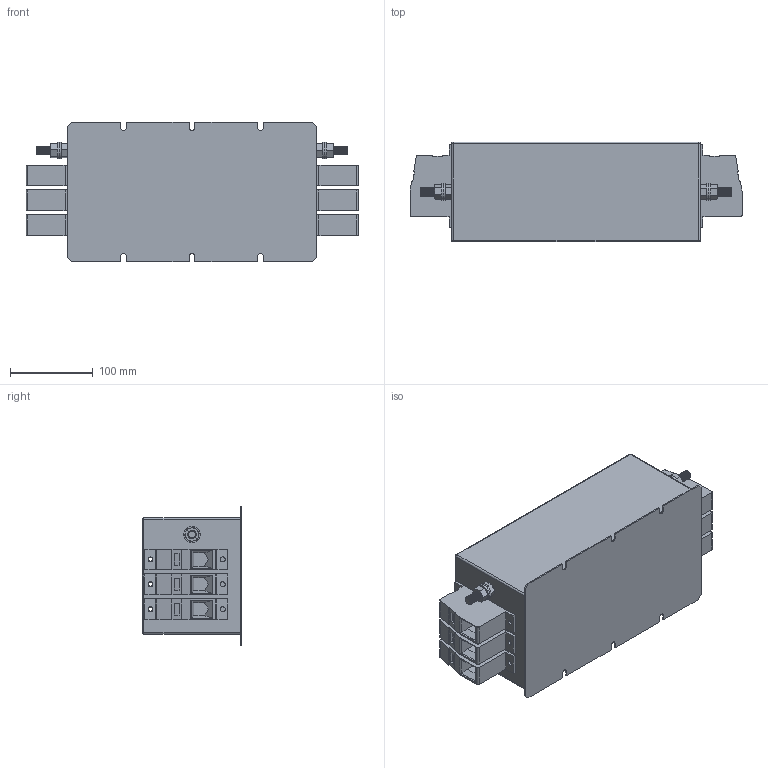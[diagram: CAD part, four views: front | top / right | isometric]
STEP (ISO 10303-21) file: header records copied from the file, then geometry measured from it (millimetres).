
FILE_DESCRIPTION (( 'STEP AP203' ), '1' );
FILE_NAME ('NF-180-FTK.STEP', '2024-04-18T15:36:25', ( '' ), ( '' ), 'SwSTEP 2.0', 'SolidWorks 2017', '' );
FILE_SCHEMA (( 'CONFIG_CONTROL_DESIGN' ));
Length unit declared in the file: millimetre
Products named in the file (7): hex screw_am_B18.6.7M - M10 x 1.5 x 30 Indented HHMS --30S; HDFK-95; flat washer narrow_am_B18.22M - Plain washer, 10 mm, narrow; NF-FTK; NF-180-FTK; M10x30 Earth post; hex nut style 1_am_B18.2.4.1M - Hex nut, Style 1,  M10 x 1.5, with 16mm WAF --D-N
Assembly tree (13 placements, depth 3):
  NF-180-FTK
    NF-FTK
    HDFK-95  x6
    M10x30 Earth post  x2
      flat washer narrow_am_B18.22M - Plain washer, 10 mm, narrow
      hex nut style 1_am_B18.2.4.1M - Hex nut, Style 1,  M10 x 1.5, with 16mm WAF --D-N
      hex screw_am_B18.6.7M - M10 x 1.5 x 30 Indented HHMS --30S
Bounding box: 400 x 120 x 168 mm (x, y, z)
Volume: 5497528.8 mm3; surface area: 441688.5 mm2
Topology: 16 solids, 16 shells, 901 faces, 2289 edges, 1462 vertices
Faces by surface type: plane 486, cylinder 211, cone 200, sphere 4
Entity records: 10594 total; most frequent: CARTESIAN_POINT 1836, DIRECTION 1737, ORIENTED_EDGE 1594, EDGE_CURVE 797, AXIS2_PLACEMENT_3D 645, VERTEX_POINT 504, VECTOR 447, LINE 447
